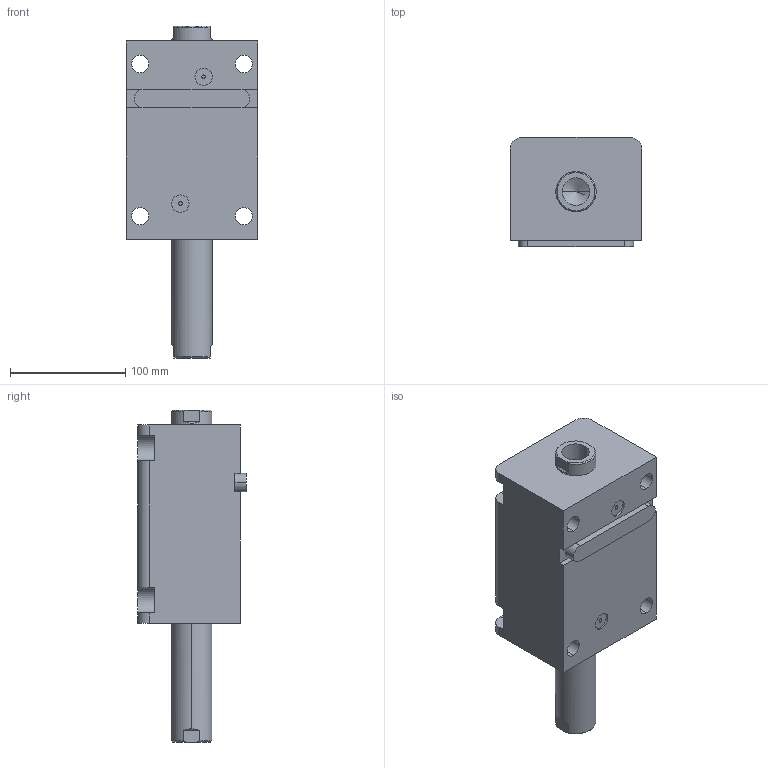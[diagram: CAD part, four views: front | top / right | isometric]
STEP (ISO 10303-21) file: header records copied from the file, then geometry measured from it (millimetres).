
FILE_DESCRIPTION (( 'STEP AP203' ), '1' );
FILE_NAME ('HTB-LWM63-90N.STEP', '2020-12-25T03:55:05', ( '微软用户' ), ( '微软中国' ), 'SwSTEP 2.0', 'SolidWorks 2012', '' );
FILE_SCHEMA (( 'CONFIG_CONTROL_DESIGN' ));
Length unit declared in the file: millimetre
Products named in the file (4): HTB-LWM63-90掛极; HTB-LWM63-90N活塞杆; HTB-LWM63-瑩; HTB-LWM63-90N
Assembly tree (3 placements, depth 2):
  HTB-LWM63-90N
    HTB-LWM63-90掛极
    HTB-LWM63-90N活塞杆
    HTB-LWM63-瑩
Bounding box: 114 x 94.5 x 288 mm (x, y, z)
Volume: 1547812.8 mm3; surface area: 185946.2 mm2
Topology: 3 solids, 3 shells, 105 faces, 261 edges, 168 vertices
Faces by surface type: cylinder 45, plane 44, torus 8, cone 8
Entity records: 3571 total; most frequent: CARTESIAN_POINT 592, DIRECTION 573, ORIENTED_EDGE 514, EDGE_CURVE 257, AXIS2_PLACEMENT_3D 221, VERTEX_POINT 168, LINE 131, VECTOR 131
